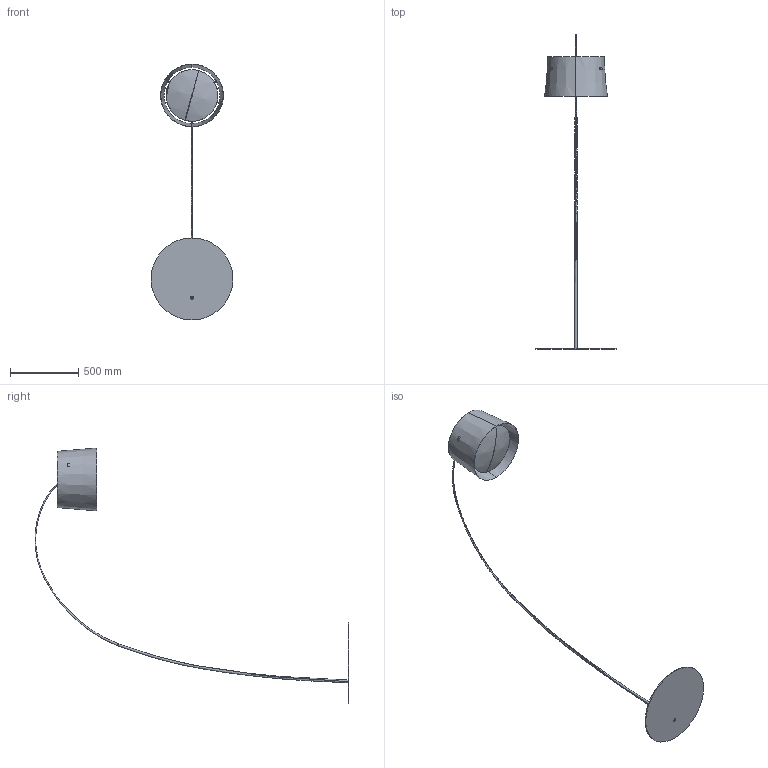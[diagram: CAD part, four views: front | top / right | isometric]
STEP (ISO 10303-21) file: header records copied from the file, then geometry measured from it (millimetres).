
FILE_DESCRIPTION (( 'STEP AP203' ), '1' );
FILE_NAME ('TWIGGY WOOD_terra_400mm.STEP', '2020-07-15T08:47:38', ( '' ), ( '' ), 'SwSTEP 2.0', 'SolidWorks 2020', '' );
FILE_SCHEMA (( 'CONFIG_CONTROL_DESIGN' ));
Length unit declared in the file: millimetre
Products named in the file (1): TWIGGY WOOD_terra_400mm
Bounding box: 600 x 2298.82 x 1873.8 mm (x, y, z)
Surface area: 1832914.3 mm2 (no closed solid volume)
Topology: 0 solids, 22 shells, 69 faces, 827 edges, 730 vertices
Faces by surface type: bspline 23, cone 17, torus 12, cylinder 7, plane 6, sphere 4
Entity records: 13075 total; most frequent: CARTESIAN_POINT 7532, DIRECTION 1156, ORIENTED_EDGE 948, EDGE_CURVE 827, VERTEX_POINT 730, AXIS2_PLACEMENT_3D 556, CIRCLE 509, B_SPLINE_CURVE_WITH_KNOTS 274
